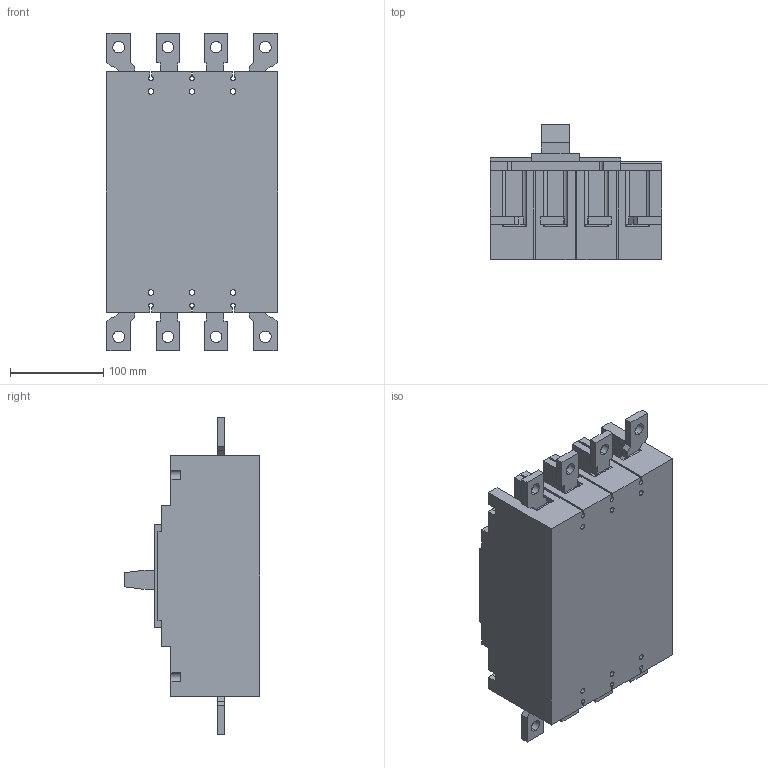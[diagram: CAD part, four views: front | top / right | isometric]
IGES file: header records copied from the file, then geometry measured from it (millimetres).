
Start section:  PTC IGES file: 25-metasol-mccb-400af-4p-4bus.igs
Global section: file name: 25-metasol-mccb-400af-4p-4bus.igs; native system: Pro/ENGINEER by Parametric Technology Corporation; preprocessor: 2010280; author: mgkimb; organization: Unknown; date: 20131029.143419; units: millimetre
Bounding box: 184 x 145 x 340 mm (x, y, z)
Surface area: 283097.3 mm2 (no closed solid volume)
Topology: 0 solids, 0 shells, 403 faces, 2184 edges, 2184 vertices
Faces by surface type: bspline 295, revolution 108
